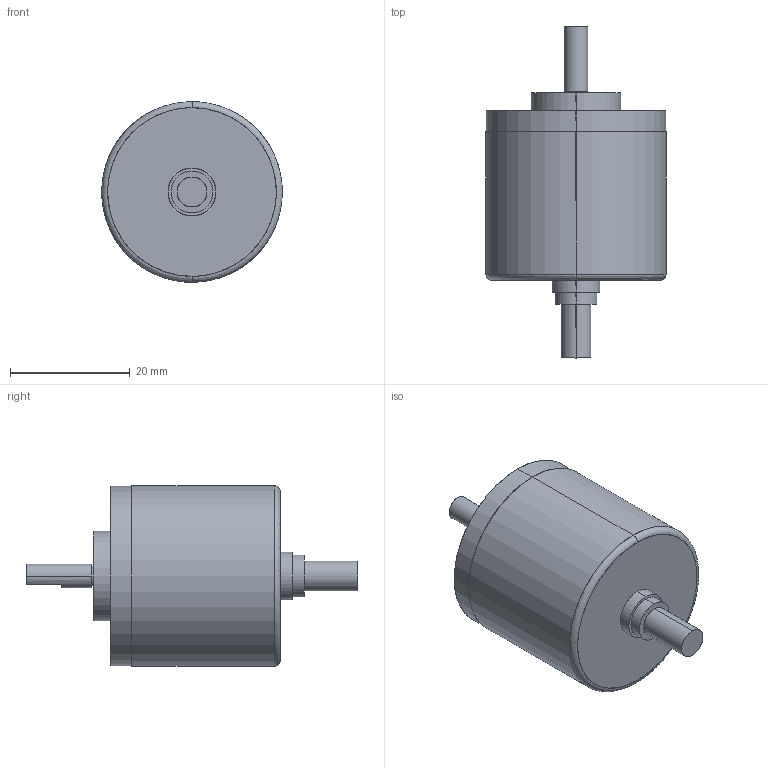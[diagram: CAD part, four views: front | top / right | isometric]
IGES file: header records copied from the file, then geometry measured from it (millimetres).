
Start section: SolidWorks IGES file using analytic representation for surfaces
Global section: file name: O:\08-Produkte_DatBlät&Beiblät&PrLi&Appl&Wettb\8-1 Megatron\GM-Design 3D-Modelle\Winkelsensoren\DB-MOL30\MOL30.IGS; native system: SolidWorks 2012; preprocessor: SolidWorks 2012; author: AlessandroC; date: 120606.132334; units: millimetre
Bounding box: 30.2 x 55.5 x 30.2 mm (x, y, z)
Surface area: 5139.6 mm2 (no closed solid volume)
Topology: 0 solids, 0 shells, 79 faces, 1386 edges, 1378 vertices
Faces by surface type: revolution 54, bspline 25
